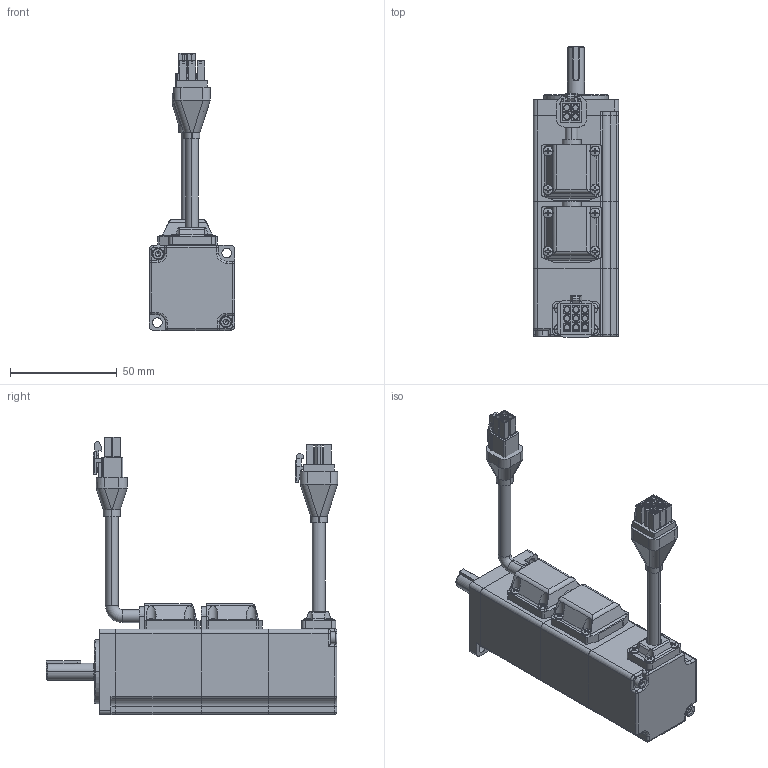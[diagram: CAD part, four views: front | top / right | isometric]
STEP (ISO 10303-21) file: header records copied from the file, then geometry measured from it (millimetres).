
FILE_DESCRIPTION((''),'2;1');
FILE_NAME('R40-50W_BRAKE_ASM','2018-11-26T',('JIANGFEI6'),(''),'CREO PARAMETRIC BY PTC INC, 2015480','CREO PARAMETRIC BY PTC INC, 2015480','');
FILE_SCHEMA(('CONFIG_CONTROL_DESIGN'));
Length unit declared in the file: millimetre
Products named in the file (24): __-2087; _____-5819; ______-7593; _____-14857; ___-15305; M2_5X5; ______-17049; __-17757; __2_5; M2_5X4; ___-20979; M3X10; ____-23137; __-26427; ______-28895; ________; ______-35055; _______; M3X28; ___-38243; ROLLING_BEARINGS_609_GB_276-94; R40_; ____-45741; R40-50W_BRAKE_ASM
Assembly tree (39 placements, depth 2):
  R40-50W_BRAKE_ASM
    __-2087
    _____-5819  x2
    ______-7593  x2
    _____-14857
    ___-15305  x2
    M2_5X5  x12
    ______-17049
    __-17757
    __2_5
    M2_5X4
    ___-20979
    M3X10  x2
    ____-23137
    __-26427
    ______-28895
    ________
    ______-35055
    _______
    M3X28  x2
    ___-38243
    ROLLING_BEARINGS_609_GB_276-94
    R40_
    ____-45741
Bounding box: 40 x 136.37 x 129.8 mm (x, y, z)
Volume: 58479.4 mm3; surface area: 73502.2 mm2
Topology: 42 solids, 69 shells, 1699 faces, 4735 edges, 3093 vertices
Faces by surface type: plane 801, cylinder 627, cone 97, torus 92, sphere 64, bspline 18
Entity records: 42873 total; most frequent: CARTESIAN_POINT 10929, DIRECTION 6608, ORIENTED_EDGE 6355, EDGE_CURVE 3391, AXIS2_PLACEMENT_3D 2402, VERTEX_POINT 2255, VECTOR 1804, LINE 1804
